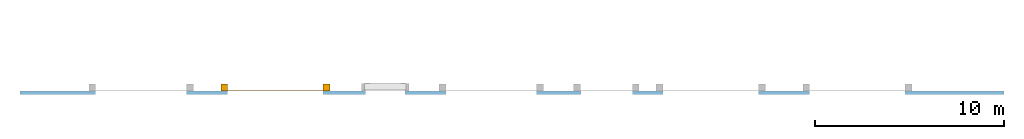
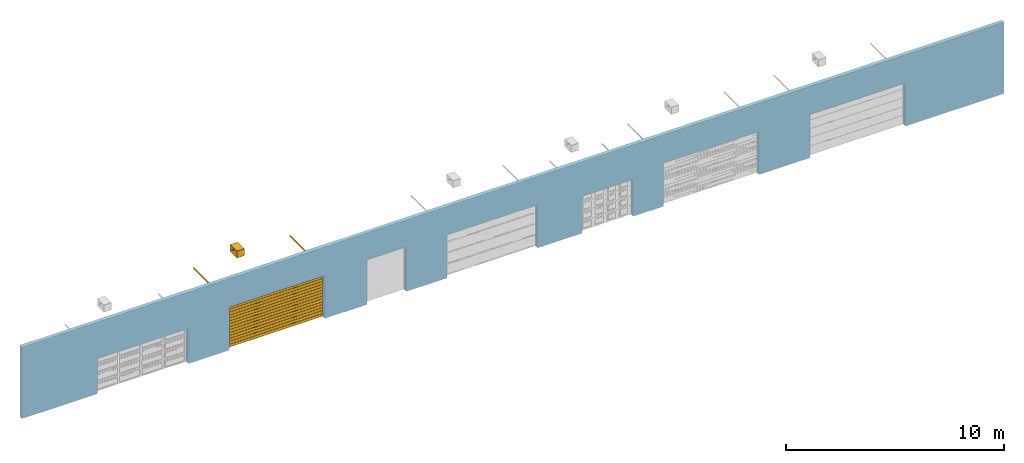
# One storey, part 2 of 4: 1 door, 7 openings, plus 1 element that does not belong to this part.
"""IFC2X3 building model written with IfcOpenShell, lengths in millimetres."""

from ifc_helpers import new_model, entity, si_unit, converted_unit, derived_unit, direction, frame, frame_2d, origin, place, context, subcontext, project, spatial, rectangle, extrude, faceted_brep, source, transform, mapped, material, material_list, layer, layer_set, layer_usage, type_object, type_shapes, element, fill, save


model = new_model("IFC2X3")

# Units and contexts
model_context = context("Model", 3, precision=0.01, world=origin(), true_north=direction((6.12303176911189e-17, 1.0)))
body_context = subcontext(model_context, "Body", "Model", "MODEL_VIEW")
ifc_project = project(units=[si_unit("LENGTHUNIT", "METRE", prefix="MILLI"), si_unit("AREAUNIT", "SQUARE_METRE"), si_unit("VOLUMEUNIT", "CUBIC_METRE"), converted_unit("PLANEANGLEUNIT", "DEGREE", entity("IfcRatioMeasure", 0.0174532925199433), si_unit("PLANEANGLEUNIT", "RADIAN"), dimensions=[0, 0, 0, 0, 0, 0, 0]), si_unit("MASSUNIT", "GRAM", prefix="KILO"), si_unit("TIMEUNIT", "SECOND"), si_unit("FREQUENCYUNIT", "HERTZ"), si_unit("THERMODYNAMICTEMPERATUREUNIT", "DEGREE_CELSIUS"), derived_unit("THERMALTRANSMITTANCEUNIT", [(si_unit("MASSUNIT", "GRAM", prefix="KILO"), 1), (si_unit("THERMODYNAMICTEMPERATUREUNIT", "KELVIN"), -1), (si_unit("TIMEUNIT", "SECOND"), -3)]), derived_unit("VOLUMETRICFLOWRATEUNIT", [(si_unit("LENGTHUNIT", "METRE"), 3), (si_unit("TIMEUNIT", "SECOND"), -1)]), si_unit("ELECTRICCURRENTUNIT", "AMPERE"), si_unit("ELECTRICVOLTAGEUNIT", "VOLT"), si_unit("POWERUNIT", "WATT"), si_unit("FORCEUNIT", "NEWTON", prefix="KILO"), si_unit("ILLUMINANCEUNIT", "LUX"), si_unit("LUMINOUSFLUXUNIT", "LUMEN"), si_unit("LUMINOUSINTENSITYUNIT", "CANDELA"), derived_unit("USERDEFINED", [(si_unit("MASSUNIT", "GRAM", prefix="KILO"), -1), (si_unit("LENGTHUNIT", "METRE"), -2), (si_unit("TIMEUNIT", "SECOND"), 3), (si_unit("LUMINOUSFLUXUNIT", "LUMEN"), 1)]), derived_unit("LINEARVELOCITYUNIT", [(si_unit("LENGTHUNIT", "METRE"), 1), (si_unit("TIMEUNIT", "SECOND"), -1)]), si_unit("PRESSUREUNIT", "PASCAL"), derived_unit("USERDEFINED", [(si_unit("LENGTHUNIT", "METRE"), -2), (si_unit("MASSUNIT", "GRAM", prefix="KILO"), 1), (si_unit("TIMEUNIT", "SECOND"), -2)])], contexts=[model_context])

# Site, building, storey
site_placement = place(None, origin())
site = spatial("IfcSite", under=ifc_project, at=site_placement, Name="Default", CompositionType="ELEMENT")
building_placement = place(site_placement, origin())
building = spatial("IfcBuilding", under=site, at=building_placement, CompositionType="ELEMENT")
storey_placement = place(building_placement, origin())
storey = spatial("IfcBuildingStorey", under=building, at=storey_placement, Name="Level 1", CompositionType="ELEMENT", Elevation=0.0)

# Wall, openings, door
ifc_material_1 = material(Name="Default Wall")
ifc_layer = layer(ifc_material_1, 200.0)
ifc_layer_set = layer_set([ifc_layer], Name="Basic Wall:Wall 1")
ifc_layer_usage = layer_usage(ifc_layer_set, "AXIS2", "NEGATIVE", 100.0)
wall_type = type_object("IfcWallType", Name="Basic Wall:Wall 1", PredefinedType="STANDARD", material=ifc_layer_set)
wall_placement = place(storey_placement, frame((-2331.13804004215, 2294.25711275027, 0.0)))
wall = element("IfcWallStandardCase", 1, at=wall_placement, inside=storey, type_object=wall_type, material=ifc_layer_usage, Name="Basic Wall:Wall 1:2445", ObjectType="Basic Wall:Wall 1:1557", context=body_context, shape_type="SweptSolid", body=[
    extrude(rectangle(XDim=52000.0, YDim=200.0, at=frame_2d((26000.0, -5.6843418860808e-14), x_axis=(-1.0, 0.0))), origin(), (0.0, 0.0, 1.0), 4000.0),
])
opening_1_placement = place(wall_placement, frame((3995.0, -100.0, 0.0)))
element("IfcOpeningElement", 2, at=opening_1_placement, cuts=wall, Name="Door-Garage-Steel Line-Sectional-Ranch:21.27 PLD:8716:1", ObjectType="Opening", context=body_context, shape_type="SweptSolid", body=[
    extrude(rectangle(XDim=1969.99999999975, YDim=4810.0, at=frame_2d((984.999999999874, 2405.0), x_axis=(1.0, 0.0))), frame((0.0, 0.0, 0.0), z_axis=(0.0, 1.0, 0.0), x_axis=(0.0, 0.0, 1.0)), (0.0, 0.0, 1.0), 200.0),
])
opening_2_placement = place(wall_placement, frame((10975.0, -100.0, 0.0)))
opening_2 = element("IfcOpeningElement", 3, at=opening_2_placement, cuts=wall, Name="Door-Garage-Steel Line-Sectional-Slim Line:24.505PLD:1", ObjectType="Opening", context=body_context, shape_type="SweptSolid", body=[
    extrude(rectangle(XDim=2419.99999999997, YDim=5050.0, at=frame_2d((1209.99999999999, 2525.0), x_axis=(1.0, 0.0))), frame((0.0, 0.0, 0.0), z_axis=(0.0, 1.0, 0.0), x_axis=(0.0, 0.0, 1.0)), (0.0, 0.0, 1.0), 200.0),
])
opening_3_placement = place(wall_placement, frame((20350.0, 100.0, 0.0)))
element("IfcOpeningElement", 4, at=opening_3_placement, cuts=wall, Name="Door-Roller-Steel Line-Standard:Standard:1", ObjectType="Opening", context=body_context, shape_type="SweptSolid", body=[
    extrude(rectangle(XDim=2500.0, YDim=2100.0, at=frame_2d((1250.0, 1050.0), x_axis=(1.0, 0.0))), frame((0.0, 0.0, 0.0), z_axis=(0.0, -1.0, 0.0), x_axis=(0.0, 0.0, 1.0)), (0.0, 0.0, 1.0), 200.0),
])
opening_4_placement = place(wall_placement, frame((22500.0, -100.0, 0.0)))
element("IfcOpeningElement", 5, at=opening_4_placement, cuts=wall, Name="Door-Garage-Steel Line-Sectional-Inspirations:24.505PLD:1", ObjectType="Opening", context=body_context, shape_type="SweptSolid", body=[
    extrude(rectangle(XDim=2419.99999999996, YDim=4800.0, at=frame_2d((1209.99999999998, 2400.0), x_axis=(1.0, 0.0))), frame((0.0, 0.0, 0.0), z_axis=(0.0, 1.0, 0.0), x_axis=(0.0, 0.0, 1.0)), (0.0, 0.0, 1.0), 200.0),
])
opening_5_placement = place(wall_placement, frame((29645.0, -100.0, 0.0)))
element("IfcOpeningElement", 6, at=opening_5_placement, cuts=wall, Name="Door-Garage-Steel Line-Sectional-Heritage:21.27 PLD:1", ObjectType="Opening", context=body_context, shape_type="SweptSolid", body=[
    extrude(rectangle(XDim=2069.99999999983, YDim=2710.0, at=frame_2d((1034.99999999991, 1355.0), x_axis=(1.0, 0.0))), frame((0.0, 0.0, 0.0), z_axis=(0.0, 1.0, 0.0), x_axis=(0.0, 0.0, 1.0)), (0.0, 0.0, 1.0), 200.0),
])
opening_6_placement = place(wall_placement, frame((33975.0, -100.0, 0.0)))
element("IfcOpeningElement", 7, at=opening_6_placement, cuts=wall, Name="Door-Garage-Steel Line-Sectional-Glacier:24.505PLD:1", ObjectType="Opening", context=body_context, shape_type="SweptSolid", body=[
    extrude(rectangle(XDim=2419.99999999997, YDim=5050.0, at=frame_2d((1209.99999999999, 2525.00000000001), x_axis=(1.0, 0.0))), frame((0.0, 0.0, 0.0), z_axis=(0.0, 1.0, 0.0), x_axis=(0.0, 0.0, 1.0)), (0.0, 0.0, 1.0), 200.0),
])
opening_7_placement = place(wall_placement, frame((41725.0, -100.0, 0.0)))
element("IfcOpeningElement", 8, at=opening_7_placement, cuts=wall, Name="Door-Garage-Steel Line-Sectional-Flat Line:24.505PLD:1", ObjectType="Opening", context=body_context, shape_type="SweptSolid", body=[
    extrude(rectangle(XDim=2419.99999999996, YDim=5050.0, at=frame_2d((1209.99999999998, 2525.0), x_axis=(1.0, 0.0))), frame((0.0, 0.0, 0.0), z_axis=(0.0, 1.0, 0.0), x_axis=(0.0, 0.0, 1.0)), (0.0, 0.0, 1.0), 200.0),
])
ifc_material_2 = material(Name="Clipsal White Electric (WE)")
ifc_material_3 = material(Name="ClearanceZone")
ifc_material_4 = material(Name="Colorbond Bushland - Steelline Doors")
ifc_material_5 = material(Name="Zincalume - Steelline Doors")
ifc_material_list_1 = material_list([ifc_material_2, ifc_material_3, ifc_material_4, ifc_material_5])
ifc_material_list_2 = material_list([ifc_material_2, ifc_material_3, ifc_material_4, ifc_material_5])
door_style = type_object("IfcDoorStyle", Name="24.505PLD", ConstructionType="NOTDEFINED", OperationType="NOTDEFINED", ParameterTakesPrecedence=False, Sizeable=False, material=ifc_material_list_2)
shared_shape = source(origin(), body_context, "Body", "Brep", [
    faceted_brep([(2861.71248850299, -3362.93367340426, 2687.69999999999), (2865.30238241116, -3327.91230581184, 2689.21967505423), (2864.96635592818, -3365.98339237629, 2688.90364032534), (2864.97843983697, -3299.31238764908, 2688.91403091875), (2865.57949386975, -3298.7506259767, 2690.22631933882), (2866.71248850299, -3297.6916979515, 2692.69999999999), (2866.71248850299, -3336.7301424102, 2692.69999999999), (2866.71248850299, -3367.61538706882, 2692.69999999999), (2865.83942221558, -3366.79938972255, 2690.80182016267), (2861.71248850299, -3323.89522873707, 2687.69999999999), (2861.71248850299, -3302.37341161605, 2687.69999999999), (2866.71248850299, -3297.6916979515, 2700.0), (2866.71248850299, -3367.61538706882, 2700.0), (2753.64863506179, -3365.99469737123, 2688.91403091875), (2756.91458639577, -3362.93367340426, 2687.69999999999), (2776.90139212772, -3363.56268028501, 2687.69999999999), (2809.31353744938, -3369.58272634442, 2692.69999999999), (2791.88329139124, -3368.98530762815, 2692.69999999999), (2800.59092190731, -3368.90715652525, 2690.27009081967), (2842.04198893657, -3368.15273703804, 2690.00218734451), (2846.72813600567, -3368.30034734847, 2692.69999999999), (2838.01301297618, -3368.59905670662, 2692.69999999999), (2826.74378350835, -3368.98530762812, 2692.69999999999), (2818.03532650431, -3368.07280921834, 2689.16446609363), (2818.03630191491, -3369.22653843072, 2690.96468934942), (2847.77985543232, -3366.08989797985, 2688.30978586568), (2800.86098833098, -3366.95959605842, 2688.32444701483), (2809.31353744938, -3364.58272634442, 2687.69999999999), (2766.91865981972, -3368.11622707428, 2690.75615183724), (2781.87148247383, -3368.82197738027, 2690.96328792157), (2771.8989388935, -3368.30034734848, 2692.69999999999), (2780.61406192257, -3368.59905670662, 2692.69999999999), (2778.16560321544, -3367.50373494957, 2689.13016963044), (2832.8991193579, -3367.2406920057, 2688.69297647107), (2841.72568277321, -3363.56268028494, 2687.69999999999), (2793.10746478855, -3364.07270331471, 2687.69999999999), (2751.91458639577, -3367.61538706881, 2692.69999999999), (2753.04758102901, -3366.55645904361, 2690.22631933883), (2825.51961011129, -3364.07270331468, 2687.69999999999), (2809.31353744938, -3300.72435867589, 2687.69999999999), (2825.51961011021, -3301.2343817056, 2687.69999999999), (2841.72568277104, -3301.74440473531, 2687.69999999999), (2756.91458639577, -3341.41185671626, 2687.69999999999), (2756.91458639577, -3302.37341161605, 2687.69999999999), (2776.90139212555, -3301.74440473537, 2687.69999999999), (2793.10746478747, -3301.23438170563, 2687.69999999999), (2809.31353744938, -3369.58272634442, 2700.0), (2835.14408620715, -3368.69738868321, 2700.0), (2838.01301297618, -3296.70802831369, 2700.0), (2809.31353744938, -3295.72435867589, 2700.0), (2783.48298869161, -3296.6096963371, 2700.0), (2751.91458639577, -3297.69169795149, 2700.0), (2751.91458639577, -3367.61538706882, 2700.0), (2780.61406192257, -3368.59905670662, 2700.0), (2753.3246924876, -3337.39477920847, 2689.21967505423), (2753.66071897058, -3299.32369264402, 2688.90364032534), (2751.91458639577, -3328.57694275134, 2692.69999999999), (2751.91458639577, -3297.69169795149, 2692.69999999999), (2752.78765268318, -3298.50769529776, 2690.80182016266), (2809.31353744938, -3295.72435867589, 2692.69999999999), (2826.74378350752, -3296.32177739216, 2692.69999999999), (2818.03615299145, -3296.39992849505, 2690.27009081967), (2776.58508596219, -3297.15434798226, 2690.00218734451), (2771.89893889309, -3297.00673767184, 2692.69999999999), (2780.61406192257, -3296.70802831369, 2692.69999999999), (2791.88329139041, -3296.32177739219, 2692.69999999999), (2800.59174839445, -3297.23427580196, 2689.16446609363), (2800.59077298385, -3296.08054658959, 2690.96468934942), (2770.84721946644, -3299.21718704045, 2688.30978586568), (2817.76608656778, -3298.34748896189, 2688.32444701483), (2851.70841507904, -3297.19085794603, 2690.75615183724), (2836.75559242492, -3296.48510764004, 2690.96328792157), (2846.72813600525, -3297.00673767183, 2692.69999999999), (2838.01301297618, -3296.70802831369, 2692.69999999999), (2840.46147168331, -3297.80335007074, 2689.13016963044), (2785.72795554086, -3298.0663930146, 2688.69297647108)], [[[0, 1, 2]], [[1, 3, 4, 5]], [[6, 7, 8, 2]], [[0, 9, 1]], [[3, 1, 9]], [[2, 1, 6]], [[3, 9, 10]], [[5, 6, 1]], [[11, 12, 7, 6, 5]], [[13, 14, 15]], [[16, 17, 18]], [[19, 20, 21, 22]], [[23, 19, 24]], [[0, 2, 25]], [[23, 26, 27]], [[28, 29, 30]], [[18, 26, 23]], [[19, 25, 2]], [[29, 17, 31, 30]], [[28, 32, 29]], [[23, 24, 18]], [[33, 34, 25]], [[24, 22, 16]], [[13, 32, 28]], [[32, 26, 18]], [[32, 35, 26]], [[18, 17, 29]], [[15, 32, 13]], [[36, 37, 13, 28]], [[18, 24, 16]], [[33, 25, 19]], [[8, 7, 20]], [[22, 24, 19]], [[35, 32, 15]], [[35, 27, 26]], [[18, 29, 32]], [[36, 28, 30]], [[23, 27, 38]], [[33, 19, 23]], [[0, 25, 34]], [[23, 38, 33]], [[34, 33, 38]], [[19, 2, 8]], [[8, 20, 19]], [[39, 40, 41, 10, 9, 0, 34, 38, 27, 35, 15, 14, 42, 43, 44, 45]], [[46, 47, 12, 11, 48, 49, 50, 51, 52, 53]], [[12, 47, 46, 16, 22, 21, 20, 7]], [[53, 52, 36, 30, 31, 17, 16, 46]], [[43, 54, 55]], [[54, 13, 37, 36]], [[56, 57, 58, 55]], [[43, 42, 54]], [[13, 54, 42]], [[55, 54, 56]], [[13, 42, 14]], [[36, 56, 54]], [[52, 51, 57, 56, 36]], [[3, 10, 41]], [[59, 60, 61]], [[62, 63, 64, 65]], [[66, 62, 67]], [[43, 55, 68]], [[66, 69, 39]], [[70, 71, 72]], [[61, 69, 66]], [[62, 68, 55]], [[71, 60, 73, 72]], [[70, 74, 71]], [[66, 67, 61]], [[75, 44, 68]], [[67, 65, 59]], [[3, 74, 70]], [[74, 69, 61]], [[74, 40, 69]], [[61, 60, 71]], [[41, 74, 3]], [[5, 4, 3, 70]], [[61, 67, 59]], [[75, 68, 62]], [[58, 57, 63]], [[65, 67, 62]], [[40, 74, 41]], [[40, 39, 69]], [[61, 71, 74]], [[5, 70, 72]], [[66, 39, 45]], [[75, 62, 66]], [[43, 68, 44]], [[66, 45, 75]], [[44, 75, 45]], [[62, 55, 58]], [[58, 63, 62]], [[51, 50, 49, 59, 65, 64, 63, 57]], [[48, 11, 5, 72, 73, 60, 59, 49]]]),
    faceted_brep([(2725.0, -3750.0, 2300.0), (2325.0, -3750.0, 2300.0), (2325.0, -3150.0, 2300.0), (2725.0, -3150.0, 2300.0), (2725.0, -3750.0, 2700.0), (2725.0, -3150.0, 2700.0), (2325.0, -3150.0, 2700.0), (2325.0, -3750.0, 2700.0)], [[[0, 1, 2, 3]], [[4, 5, 6, 7]], [[1, 0, 4, 7]], [[2, 1, 7, 6]], [[3, 2, 6, 5]], [[0, 3, 5, 4]]]),
    faceted_brep([(5410.0, 0.0, 2810.0), (-360.0, 0.0, 2810.0), (-360.0, -360.0, 2810.0), (5410.0, -360.0, 2810.0), (5410.0, 0.0, 2450.0), (5410.0, -360.0, 2450.0), (-360.0, -360.0, 2450.0), (-360.0, 0.0, 2450.0)], [[[0, 1, 2, 3]], [[4, 5, 6, 7]], [[1, 0, 4, 7]], [[2, 1, 7, 6]], [[3, 2, 6, 5]], [[0, 3, 5, 4]]]),
    faceted_brep([(5410.0, 0.0, 2450.0), (5050.0, 0.0, 2450.0), (5050.0, -360.0, 2450.0), (5410.0, -360.0, 2450.0), (5410.0, 0.0, 0.0), (5410.0, -360.0, 0.0), (5050.0, -360.0, 0.0), (5050.0, 0.0, 0.0)], [[[0, 1, 2, 3]], [[4, 5, 6, 7]], [[1, 0, 4, 7]], [[2, 1, 7, 6]], [[3, 2, 6, 5]], [[0, 3, 5, 4]]]),
    faceted_brep([(0.0, 0.0, 2450.0), (-360.0, 0.0, 2450.0), (-360.0, -360.0, 2450.0), (0.0, -360.0, 2450.0), (0.0, 0.0, 0.0), (0.0, -360.0, 0.0), (-360.0, -360.0, 0.0), (-360.0, 0.0, 0.0)], [[[0, 1, 2, 3]], [[4, 5, 6, 7]], [[1, 0, 4, 7]], [[2, 1, 7, 6]], [[3, 2, 6, 5]], [[0, 3, 5, 4]]]),
    faceted_brep([(-30.0, -30.0, 1960.0), (-30.0, -5.0, 1960.0), (-30.0, 0.0, 1955.0), (-30.0, 0.0, 1801.66666666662), (-30.0, -25.0, 1801.66666666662), (-30.0, -25.0, 1791.66666666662), (-30.0, 0.0, 1791.66666666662), (-30.0, 0.0, 1638.33333333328), (-30.0, -25.0, 1638.33333333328), (-30.0, -25.0, 1628.33333333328), (-30.0, 0.0, 1628.33333333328), (-30.0, 0.0, 1475.0), (-30.0, -5.0, 1470.0), (-30.0, -30.0, 1470.0), (5080.0, -30.0, 1960.0), (5080.0, -30.0, 1470.0), (5080.0, -5.0, 1470.0), (5080.0, 0.0, 1475.0), (5080.0, 0.0, 1628.33333333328), (5080.0, -25.0, 1628.33333333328), (5080.0, -25.0, 1638.33333333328), (5080.0, 0.0, 1638.33333333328), (5080.0, 0.0, 1791.66666666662), (5080.0, -25.0, 1791.66666666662), (5080.0, -25.0, 1801.66666666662), (5080.0, 0.0, 1801.66666666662), (5080.0, 0.0, 1955.0), (5080.0, -5.0, 1960.0)], [[[0, 1, 2, 3, 4, 5, 6, 7, 8, 9, 10, 11, 12, 13]], [[14, 15, 16, 17, 18, 19, 20, 21, 22, 23, 24, 25, 26, 27]], [[1, 0, 14, 27]], [[2, 1, 27, 26]], [[3, 2, 26, 25]], [[4, 3, 25, 24]], [[5, 4, 24, 23]], [[6, 5, 23, 22]], [[7, 6, 22, 21]], [[8, 7, 21, 20]], [[9, 8, 20, 19]], [[10, 9, 19, 18]], [[11, 10, 18, 17]], [[12, 11, 17, 16]], [[13, 12, 16, 15]], [[0, 13, 15, 14]]]),
    faceted_brep([(5105.0, 0.0, 0.0), (5105.0, -30.0, 0.0), (5055.0, -30.0, 0.0), (5055.0, 0.0, 0.0), (5055.0, 0.0, 2450.0), (5055.0, -30.0, 2450.0), (5055.0, -34.7636966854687, 2492.2789774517), (5055.0, -48.8159150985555, 2532.43791043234), (5055.0, -71.4520183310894, 2568.46306235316), (5055.0, -101.536937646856, 2598.54798166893), (5055.0, -137.562089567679, 2621.18408490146), (5055.0, -177.721022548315, 2635.23630331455), (5055.0, -220.0, 2640.0), (5055.0, -3050.0, 2640.0), (5055.0, -3050.0, 2670.0), (5055.0, -220.0, 2670.0), (5055.0, -171.045394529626, 2664.48414068), (5055.0, -124.545577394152, 2648.21315093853), (5055.0, -82.8322435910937, 2622.00292614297), (5055.0, -47.9970738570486, 2587.16775640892), (5055.0, -21.7868490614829, 2545.45442260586), (5055.0, -5.51585932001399, 2498.95460547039), (5105.0, -30.0, 2450.0), (5105.0, 0.0, 2450.0), (5105.0, -5.51585932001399, 2498.95460547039), (5105.0, -21.7868490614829, 2545.45442260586), (5105.0, -47.9970738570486, 2587.16775640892), (5105.0, -82.8322435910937, 2622.00292614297), (5105.0, -124.545577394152, 2648.21315093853), (5105.0, -171.045394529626, 2664.48414068), (5105.0, -220.0, 2670.0), (5105.0, -3050.0, 2670.0), (5105.0, -3050.0, 2640.0), (5105.0, -220.0, 2640.0), (5105.0, -177.721022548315, 2635.23630331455), (5105.0, -137.562089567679, 2621.18408490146), (5105.0, -101.536937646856, 2598.54798166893), (5105.0, -71.4520183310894, 2568.46306235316), (5105.0, -48.8159150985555, 2532.43791043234), (5105.0, -34.7636966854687, 2492.2789774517)], [[[0, 1, 2, 3]], [[4, 3, 2, 5, 6, 7, 8, 9, 10, 11, 12, 13, 14, 15, 16, 17, 18, 19, 20, 21]], [[5, 2, 1, 22]], [[23, 24, 25, 26, 27, 28, 29, 30, 31, 32, 33, 34, 35, 36, 37, 38, 39, 22, 1, 0]], [[23, 0, 3, 4]], [[6, 5, 22, 39]], [[39, 38, 7, 6]], [[37, 8, 7, 38]], [[37, 36, 9, 8]], [[36, 35, 10, 9]], [[35, 34, 11, 10]], [[11, 34, 33, 12]], [[24, 23, 4, 21]], [[20, 25, 24, 21]], [[25, 20, 19, 26]], [[19, 18, 27, 26]], [[28, 27, 18, 17]], [[17, 16, 29, 28]], [[29, 16, 15, 30]], [[13, 32, 31, 14]], [[32, 13, 12, 33]], [[14, 31, 30, 15]]]),
    faceted_brep([(-5.0, -30.0, 0.0), (-55.0, -30.0, 0.0), (-55.0, 0.0, 0.0), (-5.0, 0.0, 0.0), (-5.0, 0.0, 2450.0), (-5.0, -5.51585932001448, 2498.95460547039), (-5.0, -21.7868490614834, 2545.45442260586), (-5.0, -47.997073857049, 2587.16775640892), (-5.0, -82.8322435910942, 2622.00292614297), (-5.0, -124.545577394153, 2648.21315093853), (-5.0, -171.045394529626, 2664.48414068), (-5.0, -220.0, 2670.0), (-5.0, -3050.0, 2670.0), (-5.0, -3050.0, 2640.0), (-5.0, -220.0, 2640.0), (-5.0, -177.721022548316, 2635.23630331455), (-5.0, -137.562089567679, 2621.18408490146), (-5.0, -101.536937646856, 2598.54798166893), (-5.0, -71.45201833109, 2568.46306235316), (-5.0, -48.815915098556, 2532.43791043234), (-5.0, -34.7636966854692, 2492.2789774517), (-5.0, -30.0, 2450.0), (-55.0, -30.0, 2450.0), (-55.0, -34.7636966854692, 2492.2789774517), (-55.0, -48.815915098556, 2532.43791043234), (-55.0, -71.45201833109, 2568.46306235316), (-55.0, -101.536937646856, 2598.54798166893), (-55.0, -137.562089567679, 2621.18408490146), (-55.0, -177.721022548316, 2635.23630331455), (-55.0, -220.0, 2640.0), (-55.0, -3050.0, 2640.0), (-55.0, -3050.0, 2670.0), (-55.0, -220.0, 2670.0), (-55.0, -171.045394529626, 2664.48414068), (-55.0, -124.545577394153, 2648.21315093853), (-55.0, -82.8322435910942, 2622.00292614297), (-55.0, -47.997073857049, 2587.16775640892), (-55.0, -21.7868490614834, 2545.45442260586), (-55.0, -5.51585932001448, 2498.95460547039), (-55.0, 0.0, 2450.0)], [[[0, 1, 2, 3]], [[0, 3, 4, 5, 6, 7, 8, 9, 10, 11, 12, 13, 14, 15, 16, 17, 18, 19, 20, 21]], [[1, 0, 21, 22]], [[22, 23, 24, 25, 26, 27, 28, 29, 30, 31, 32, 33, 34, 35, 36, 37, 38, 39, 2, 1]], [[3, 2, 39, 4]], [[23, 22, 21, 20]], [[19, 24, 23, 20]], [[24, 19, 18, 25]], [[18, 17, 26, 25]], [[16, 27, 26, 17]], [[16, 15, 28, 27]], [[29, 28, 15, 14]], [[5, 4, 39, 38]], [[38, 37, 6, 5]], [[36, 7, 6, 37]], [[36, 35, 8, 7]], [[9, 8, 35, 34]], [[34, 33, 10, 9]], [[32, 11, 10, 33]], [[31, 30, 13, 12]], [[29, 14, 13, 30]], [[11, 32, 31, 12]]]),
    faceted_brep([(-30.0, -30.0, 1470.0), (-30.0, -5.0, 1470.0), (-30.0, 0.0, 1465.0), (-30.0, 0.0, 1311.66666666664), (-30.0, -25.0, 1311.66666666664), (-30.0, -25.0, 1301.66666666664), (-30.0, 0.0, 1301.66666666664), (-30.0, 0.0, 1148.3333333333), (-30.0, -25.0, 1148.3333333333), (-30.0, -25.0, 1138.3333333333), (-30.0, 0.0, 1138.3333333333), (-30.0, 0.0, 985.0), (-30.0, -5.0, 980.0), (-30.0, -30.0, 980.0), (5080.0, -30.0, 1470.0), (5080.0, -30.0, 980.0), (5080.0, -5.0, 980.0), (5080.0, 0.0, 985.0), (5080.0, 0.0, 1138.3333333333), (5080.0, -25.0, 1138.3333333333), (5080.0, -25.0, 1148.3333333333), (5080.0, 0.0, 1148.3333333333), (5080.0, 0.0, 1301.66666666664), (5080.0, -25.0, 1301.66666666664), (5080.0, -25.0, 1311.66666666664), (5080.0, 0.0, 1311.66666666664), (5080.0, 0.0, 1465.0), (5080.0, -5.0, 1470.0)], [[[0, 1, 2, 3, 4, 5, 6, 7, 8, 9, 10, 11, 12, 13]], [[14, 15, 16, 17, 18, 19, 20, 21, 22, 23, 24, 25, 26, 27]], [[1, 0, 14, 27]], [[2, 1, 27, 26]], [[3, 2, 26, 25]], [[4, 3, 25, 24]], [[5, 4, 24, 23]], [[6, 5, 23, 22]], [[7, 6, 22, 21]], [[8, 7, 21, 20]], [[9, 8, 20, 19]], [[10, 9, 19, 18]], [[11, 10, 18, 17]], [[12, 11, 17, 16]], [[13, 12, 16, 15]], [[0, 13, 15, 14]]]),
    faceted_brep([(-30.0, -30.0, 980.0), (-30.0, -5.0, 980.0), (-30.0, 0.0, 975.0), (-30.0, 0.0, 821.666666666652), (-30.0, -25.0, 821.666666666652), (-30.0, -25.0, 811.666666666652), (-30.0, 0.0, 811.666666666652), (-30.0, 0.0, 658.333333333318), (-30.0, -25.0, 658.333333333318), (-30.0, -25.0, 648.333333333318), (-30.0, 0.0, 648.333333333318), (-30.0, 0.0, 495.0), (-30.0, -5.0, 490.0), (-30.0, -30.0, 490.0), (5080.0, -30.0, 980.0), (5080.0, -30.0, 490.0), (5080.0, -5.0, 490.0), (5080.0, 0.0, 495.0), (5080.0, 0.0, 648.333333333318), (5080.0, -25.0, 648.333333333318), (5080.0, -25.0, 658.333333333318), (5080.0, 0.0, 658.333333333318), (5080.0, 0.0, 811.666666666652), (5080.0, -25.0, 811.666666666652), (5080.0, -25.0, 821.666666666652), (5080.0, 0.0, 821.666666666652), (5080.0, 0.0, 975.0), (5080.0, -5.0, 980.0)], [[[0, 1, 2, 3, 4, 5, 6, 7, 8, 9, 10, 11, 12, 13]], [[14, 15, 16, 17, 18, 19, 20, 21, 22, 23, 24, 25, 26, 27]], [[1, 0, 14, 27]], [[2, 1, 27, 26]], [[3, 2, 26, 25]], [[4, 3, 25, 24]], [[5, 4, 24, 23]], [[6, 5, 23, 22]], [[7, 6, 22, 21]], [[8, 7, 21, 20]], [[9, 8, 20, 19]], [[10, 9, 19, 18]], [[11, 10, 18, 17]], [[12, 11, 17, 16]], [[13, 12, 16, 15]], [[0, 13, 15, 14]]]),
    faceted_brep([(-30.0, -30.0, 2450.0), (-30.0, -5.0, 2450.0), (-30.0, 0.0, 2445.0), (-30.0, 0.0, 2291.66666666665), (-30.0, -25.0, 2291.66666666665), (-30.0, -25.0, 2281.66666666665), (-30.0, 0.0, 2281.66666666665), (-30.0, 0.0, 2128.33333333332), (-30.0, -25.0, 2128.33333333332), (-30.0, -25.0, 2118.33333333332), (-30.0, 0.0, 2118.33333333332), (-30.0, 0.0, 1965.0), (-30.0, -5.0, 1960.0), (-30.0, -30.0, 1960.0), (5080.0, -30.0, 2450.0), (5080.0, -30.0, 1960.0), (5080.0, -5.0, 1960.0), (5080.0, 0.0, 1965.0), (5080.0, 0.0, 2118.33333333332), (5080.0, -25.0, 2118.33333333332), (5080.0, -25.0, 2128.33333333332), (5080.0, 0.0, 2128.33333333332), (5080.0, 0.0, 2281.66666666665), (5080.0, -25.0, 2281.66666666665), (5080.0, -25.0, 2291.66666666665), (5080.0, 0.0, 2291.66666666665), (5080.0, 0.0, 2445.0), (5080.0, -5.0, 2450.0)], [[[0, 1, 2, 3, 4, 5, 6, 7, 8, 9, 10, 11, 12, 13]], [[14, 15, 16, 17, 18, 19, 20, 21, 22, 23, 24, 25, 26, 27]], [[1, 0, 14, 27]], [[2, 1, 27, 26]], [[3, 2, 26, 25]], [[4, 3, 25, 24]], [[5, 4, 24, 23]], [[6, 5, 23, 22]], [[7, 6, 22, 21]], [[8, 7, 21, 20]], [[9, 8, 20, 19]], [[10, 9, 19, 18]], [[11, 10, 18, 17]], [[12, 11, 17, 16]], [[13, 12, 16, 15]], [[0, 13, 15, 14]]]),
    faceted_brep([(-30.0, -30.0, 490.0), (-30.0, -5.0, 490.0), (-30.0, 0.0, 485.0), (-30.0, 0.0, 331.666666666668), (-30.0, -25.0, 331.666666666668), (-30.0, -25.0, 321.666666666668), (-30.0, 0.0, 321.666666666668), (-30.0, 0.0, 168.333333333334), (-30.0, -25.0, 168.333333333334), (-30.0, -25.0, 158.333333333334), (-30.0, 0.0, 158.333333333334), (-30.0, 0.0, 5.0), (-30.0, -5.0, 0.0), (-30.0, -30.0, 0.0), (5080.0, -30.0, 490.0), (5080.0, -30.0, 0.0), (5080.0, -5.0, 0.0), (5080.0, 0.0, 5.0), (5080.0, 0.0, 158.333333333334), (5080.0, -25.0, 158.333333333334), (5080.0, -25.0, 168.333333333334), (5080.0, 0.0, 168.333333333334), (5080.0, 0.0, 321.666666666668), (5080.0, -25.0, 321.666666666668), (5080.0, -25.0, 331.666666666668), (5080.0, 0.0, 331.666666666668), (5080.0, 0.0, 485.0), (5080.0, -5.0, 490.0)], [[[0, 1, 2, 3, 4, 5, 6, 7, 8, 9, 10, 11, 12, 13]], [[14, 15, 16, 17, 18, 19, 20, 21, 22, 23, 24, 25, 26, 27]], [[1, 0, 14, 27]], [[2, 1, 27, 26]], [[3, 2, 26, 25]], [[4, 3, 25, 24]], [[5, 4, 24, 23]], [[6, 5, 23, 22]], [[7, 6, 22, 21]], [[8, 7, 21, 20]], [[9, 8, 20, 19]], [[10, 9, 19, 18]], [[11, 10, 18, 17]], [[12, 11, 17, 16]], [[13, 12, 16, 15]], [[0, 13, 15, 14]]]),
])
type_shapes(door_style, [shared_shape])
door_placement = place(opening_2_placement, frame((5050.0, 200.0, 0.0), z_axis=(0.0, 0.0, 1.0), x_axis=(-1.0, 0.0, 0.0)))
door = element("IfcDoor", 9, at=door_placement, inside=storey, type_object=door_style, material=ifc_material_list_1, Name="Door-Garage-Steel Line-Sectional-Slim Line:24.505PLD", ObjectType="24.505PLD", OverallHeight=2419.99999999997, OverallWidth=5050.0, context=body_context, shape_type="MappedRepresentation", body=[
    mapped(shared_shape, transform((0.0, 0.0, 0.0), scale=1.0)),
])
fill(opening_2, door)

save(model, "model.ifc")
